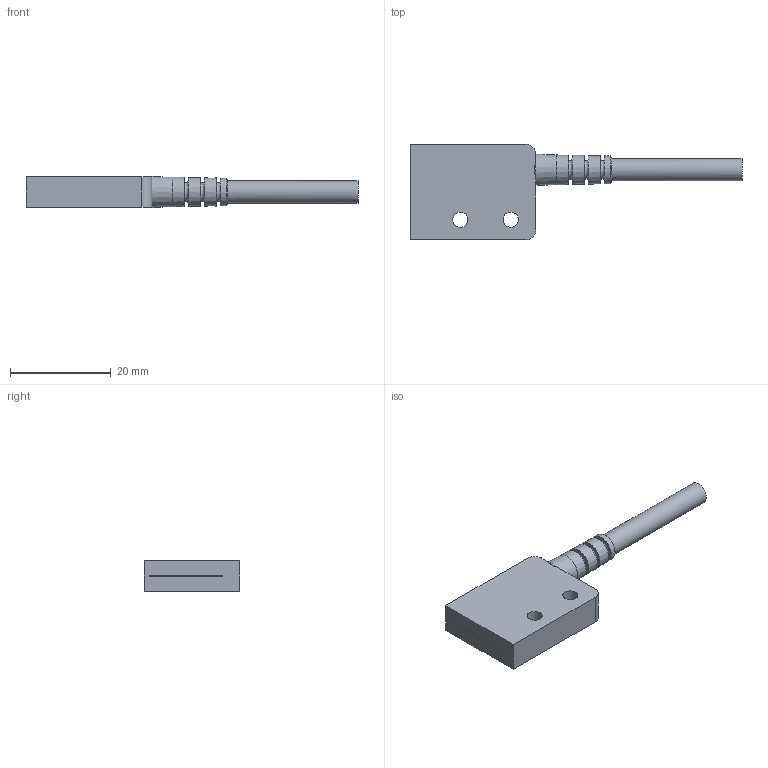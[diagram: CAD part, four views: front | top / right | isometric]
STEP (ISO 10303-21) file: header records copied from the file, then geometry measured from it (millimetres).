
FILE_DESCRIPTION(/* description */ (''),/* implementation_level */ '2;1');
FILE_NAME(/* name */ 'web_kfx_et_20ml_20.stp',/* time_stamp */ '2013-01-08T10:58:59+01:00',/* author */ (''),/* organization */ (''),/* preprocessor_version */ 'ST-DEVELOPER v11',/* originating_system */ 'SIEMENS UGS NX 6.0',/* authorisation */ '');
FILE_SCHEMA (('CONFIG_CONTROL_DESIGN'));
Length unit declared in the file: millimetre
Products named in the file (1): 002717_00.0
Bounding box: 65.89 x 19 x 6.2 mm (x, y, z)
Volume: 3509.7 mm3; surface area: 2238.2 mm2
Topology: 1 solids, 1 shells, 103 faces, 183 edges, 121 vertices
Faces by surface type: plane 53, cylinder 39, cone 8, torus 3
Full cylindrical faces by diameter (mm): 0.265 x32, 3 x2, 4.4 x1
Entity records: 2500 total; most frequent: CARTESIAN_POINT 493, DIRECTION 426, ORIENTED_EDGE 278, AXIS2_PLACEMENT_3D 198, EDGE_LOOP 190, FACE_BOUND 141, EDGE_CURVE 139, VERTEX_POINT 121
